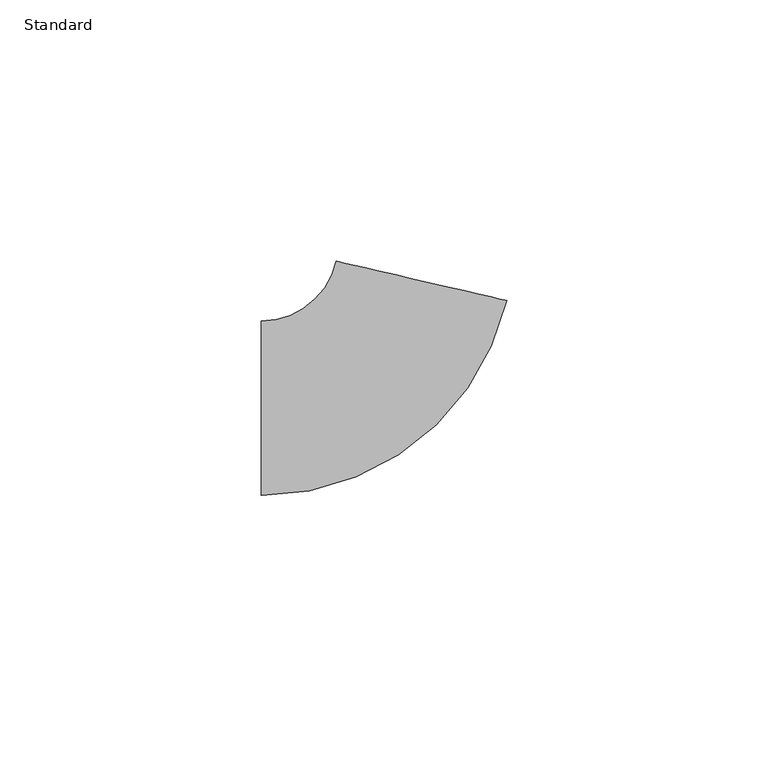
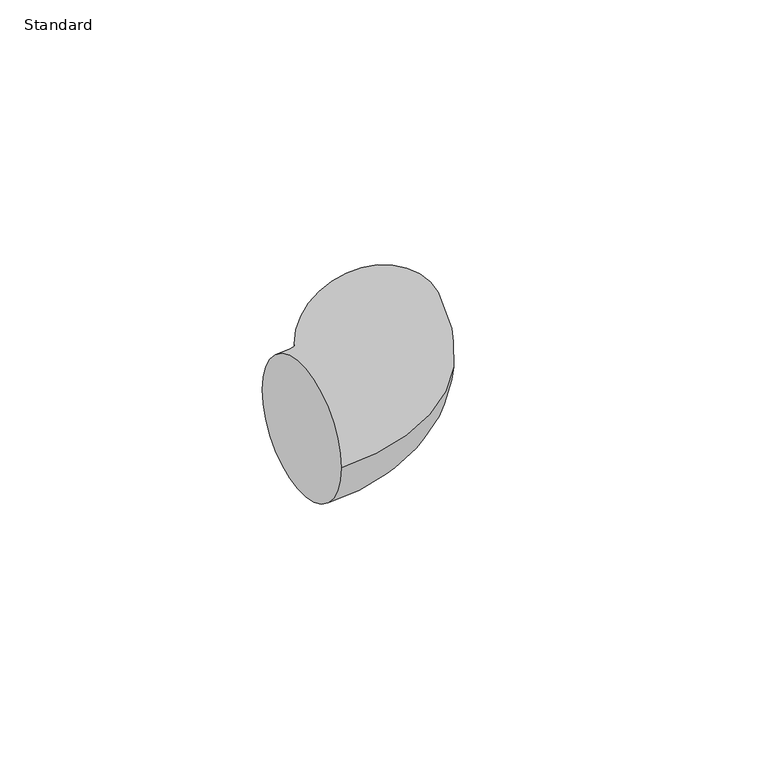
"""IFC4 building model written with IfcOpenShell, lengths in millimetres: pipe fitting geometry, Coude - Générique1 : Standard."""

from ifc_helpers import new_model, si_unit, point, frame, origin, place, context, project, spatial, circle_curve, ellipse_curve, trimmed, source, transform, mapped, element, save
from ifc_brep_helpers import plane_surface, revolved_surface, advanced_brep


def standard_b47c3705(model_context):
    return source(origin(), model_context, "Body", "AdvancedBrep", [
        advanced_brep(
        [(-25.0, -16.7, 0.0), (-25.0, 16.7, 0.0), (21.8992088, 20.5988993, 0.0), (-10.6434917, 28.1177183, 0.0)],
        [
            (0, 1, circle_curve(frame((-25.0, 0.0, 0.0), z_axis=(-1.0, 0.0, 0.0), x_axis=(0.0, 1.0, 0.0)), 16.7)),
            (1, 0, circle_curve(frame((-25.0, 0.0, 0.0), z_axis=(-1.0, 0.0, 0.0), x_axis=(0.0, 1.0, 0.0)), 16.7)),
            (2, 3, circle_curve(frame((5.6278585, 24.3583088, 0.0), z_axis=(0.22511434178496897, 0.974332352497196, 0.0), x_axis=(-0.974332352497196, 0.22511434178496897, 0.0)), 16.7)),
            (3, 2, circle_curve(frame((5.6278585, 24.3583088, 0.0), z_axis=(0.22511434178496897, 0.974332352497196, 0.0), x_axis=(-0.974332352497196, 0.22511434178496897, 0.0)), 16.7)),
            (3, 1, circle_curve(frame((-25.0, 31.4347137, 0.0), z_axis=(0.0, 0.0, -1.0), x_axis=(0.0, -1.0, 0.0)), 14.7347137)),
            (0, 2, circle_curve(frame((-25.0, 31.4347137, 0.0), z_axis=(0.0, 0.0, 1.0), x_axis=(0.0, -1.0, 0.0)), 48.1347137)),
        ],
        [
            plane_surface(frame((-25.0, 0.0, 0.0), z_axis=(-1.0, 0.0, 0.0), x_axis=(0.0, 0.0, 1.0))),
            plane_surface(frame((5.6278585, 24.3583088, 0.0), z_axis=(0.22511434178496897, 0.9743323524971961, 0.0), x_axis=(0.0, 0.0, 1.0))),
            revolved_surface(trimmed(ellipse_curve(frame((-25.0, 0.0, 0.0), z_axis=(-1.0, 0.0, 0.0), x_axis=(0.0, 1.0, 0.0)), 16.7, 16.7), [point((-25.0, -16.7, 0.0))], [point((-25.0, 16.7, 0.0))], True, "CARTESIAN"), (-25.0, 31.4347137, 0.0), (0.0, 0.0, 1.0)),
            revolved_surface(trimmed(ellipse_curve(frame((-25.0, 0.0, 0.0), z_axis=(-1.0, 0.0, 0.0), x_axis=(0.0, 1.0, 0.0)), 16.7, 16.7), [point((-25.0, 16.7, 0.0))], [point((-25.0, -16.7, 0.0))], True, "CARTESIAN"), (-25.0, 31.4347137, 0.0), (0.0, 0.0, 1.0)),
        ],
        [
            (0, [[1, 2]]),
            (1, [[3, 4]]),
            (2, [[5, -1, 6, -4]]),
            (3, [[-6, -2, -5, -3]]),
        ],
    ),
    ])


if __name__ == "__main__":
    model = new_model("IFC4")
    model_context = context("Model", 3, world=origin())
    ifc_project = project(units=[si_unit("LENGTHUNIT", "METRE", prefix="MILLI")], contexts=[model_context])
    site = spatial("IfcSite", under=ifc_project)
    building = spatial("IfcBuilding", under=site)
    placement = place(None, origin())
    standard_shape = standard_b47c3705(model_context)
    element("IfcPipeFitting", 1, ObjectType="Coude - Générique1 : Standard", at=placement, inside=building, context=model_context, shape_type="MappedRepresentation", body=[
        mapped(standard_shape, transform((0.0, 0.0, 0.0), x_axis=(1.0, 0.0, 0.0), y_axis=(0.0, 1.0, 0.0), z_axis=(0.0, 0.0, 1.0))),
    ])
    save(model, "model.ifc")
